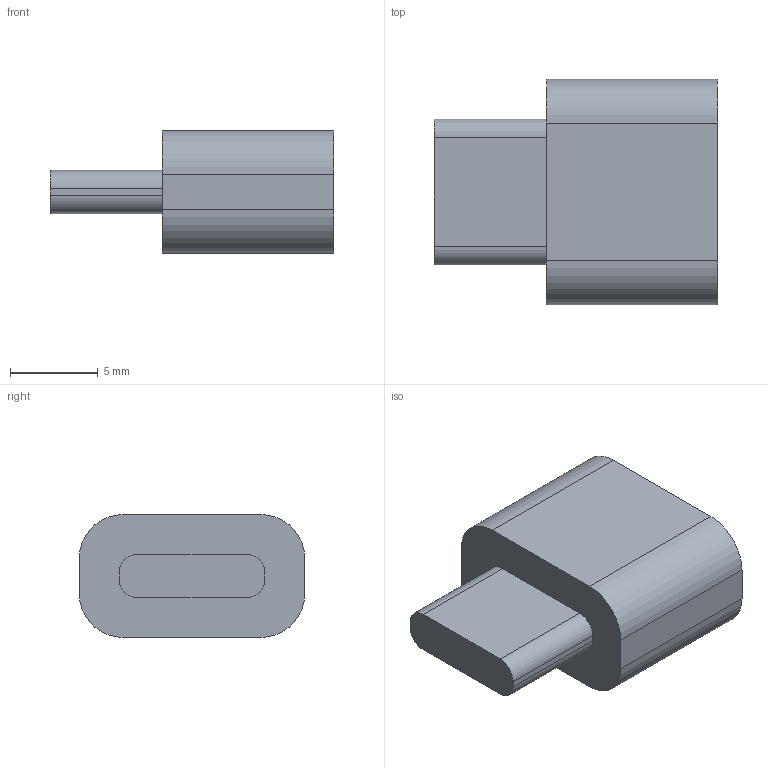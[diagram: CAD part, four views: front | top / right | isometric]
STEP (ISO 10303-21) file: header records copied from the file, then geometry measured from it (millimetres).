
FILE_DESCRIPTION(('Open CASCADE Model'),'2;1');
FILE_NAME('Open CASCADE Shape Model','2026-09-09T12:58:10',('Author'),( 'Open CASCADE'),'Open CASCADE STEP processor 7.9','Open CASCADE 7.9' ,'Unknown');
FILE_SCHEMA(('AUTOMOTIVE_DESIGN { 1 0 10303 214 1 1 1 1 }'));
Length unit declared in the file: millimetre
Products named in the file (1): Open CASCADE STEP translator 7.9 39
Bounding box: 16.17 x 12.85 x 7 mm (x, y, z)
Volume: 951.4 mm3; surface area: 641.5 mm2
Topology: 1 solids, 1 shells, 19 faces, 48 edges, 32 vertices
Faces by surface type: plane 11, cylinder 8
Entity records: 1216 total; most frequent: CARTESIAN_POINT 228, DIRECTION 188, LINE 104, VECTOR 104, ORIENTED_EDGE 96, PCURVE 96, DEFINITIONAL_REPRESENTATION 96, EDGE_CURVE 48
